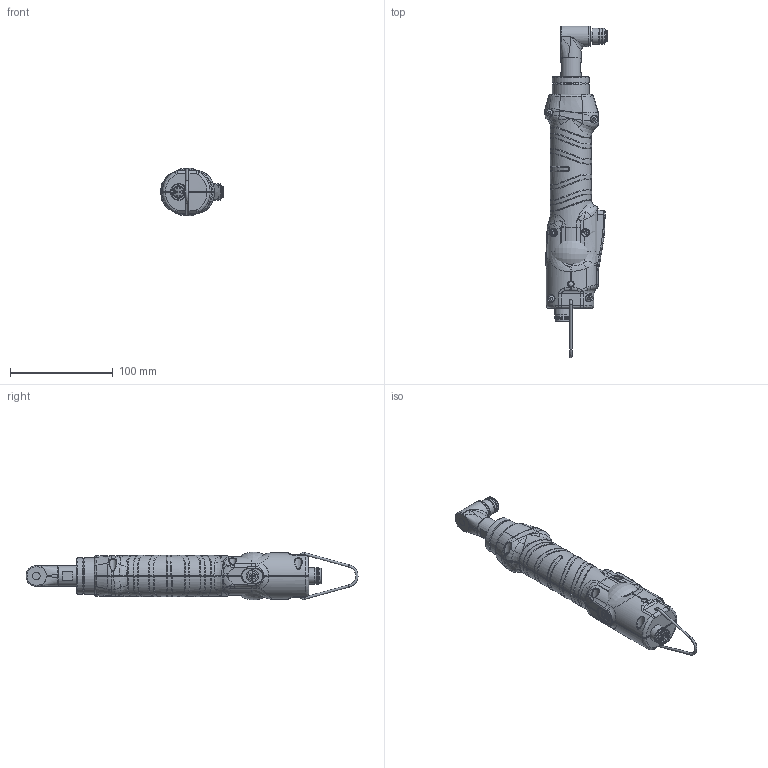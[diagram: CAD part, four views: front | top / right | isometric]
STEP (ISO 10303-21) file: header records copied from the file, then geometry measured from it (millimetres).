
FILE_DESCRIPTION (( 'STEP AP214' ), '1' );
FILE_NAME ('KDS-6-10D-ANG.STEP', '2025-09-15T14:02:46', ( '' ), ( '' ), 'SwSTEP 2.0', 'SolidWorks 2024', '' );
FILE_SCHEMA (( 'AUTOMOTIVE_DESIGN' ));
Length unit declared in the file: millimetre
Products named in the file (1): KDS-6-10D-ANG
Bounding box: 60.89 x 323.59 x 46.74 mm (x, y, z)
Surface area: 61376.5 mm2 (no closed solid volume)
Topology: 0 solids, 39 shells, 879 faces, 2950 edges, 2045 vertices
Faces by surface type: bspline 434, cylinder 176, plane 157, cone 77, torus 35
Full cylindrical faces by diameter (mm): 1 x10, 2.2 x2, 5.7 x4, 7.5 x1, 10.6 x1, 10.8 x1, 11.8 x1, 12.9 x1, 14.85 x2, 15.4 x2, 15.9 x3, 16 x1, 19 x1, 20 x2, 20.1 x1, 34.5 x1, 36 x2
Entity records: 76735 total; most frequent: CARTESIAN_POINT 46762, ORIENTED_EDGE 4657, EDGE_CURVE 2832, DIRECTION 2780, VERTEX_POINT 2025, B_SPLINE_CURVE_WITH_KNOTS 1423, AXIS2_PLACEMENT_3D 1033, EDGE_LOOP 1030
